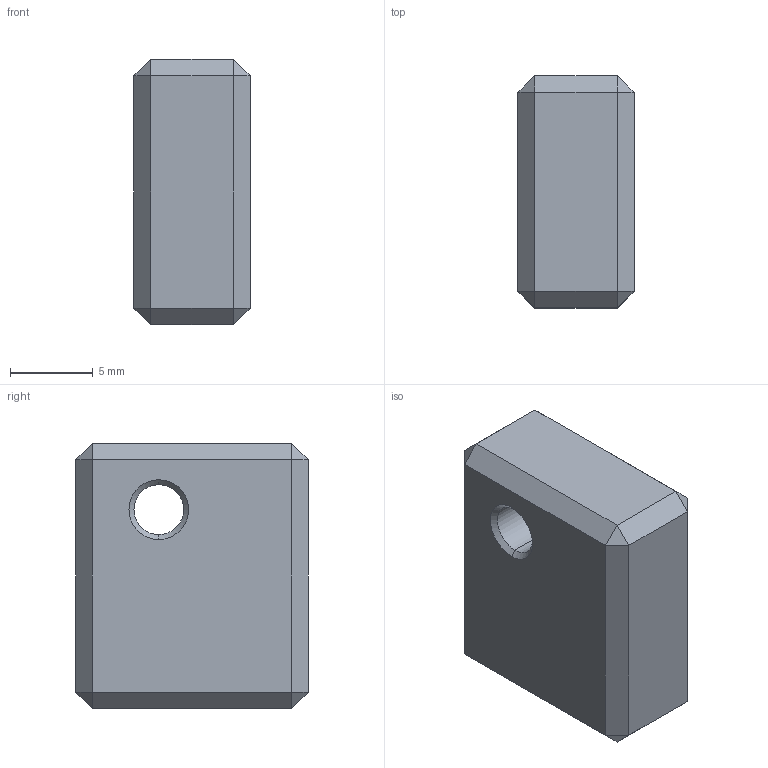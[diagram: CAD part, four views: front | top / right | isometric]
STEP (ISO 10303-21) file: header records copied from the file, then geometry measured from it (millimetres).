
FILE_DESCRIPTION (( 'STEP AP214' ), '1' );
FILE_NAME ('鵿闉 2.STEP', '2024-12-19T13:25:14', ( '' ), ( '' ), 'SwSTEP 2.0', 'SolidWorks 2021', '' );
FILE_SCHEMA (( 'AUTOMOTIVE_DESIGN' ));
Length unit declared in the file: millimetre
Products named in the file (1): 鵿闉 2
Bounding box: 7 x 14 x 16 mm (x, y, z)
Volume: 1448.9 mm3; surface area: 827 mm2
Topology: 1 solids, 1 shells, 32 faces, 62 edges, 32 vertices
Faces by surface type: plane 26, cone 4, cylinder 2
Entity records: 808 total; most frequent: DIRECTION 136, CARTESIAN_POINT 127, ORIENTED_EDGE 124, EDGE_CURVE 62, LINE 54, VECTOR 54, AXIS2_PLACEMENT_3D 41, EDGE_LOOP 34
